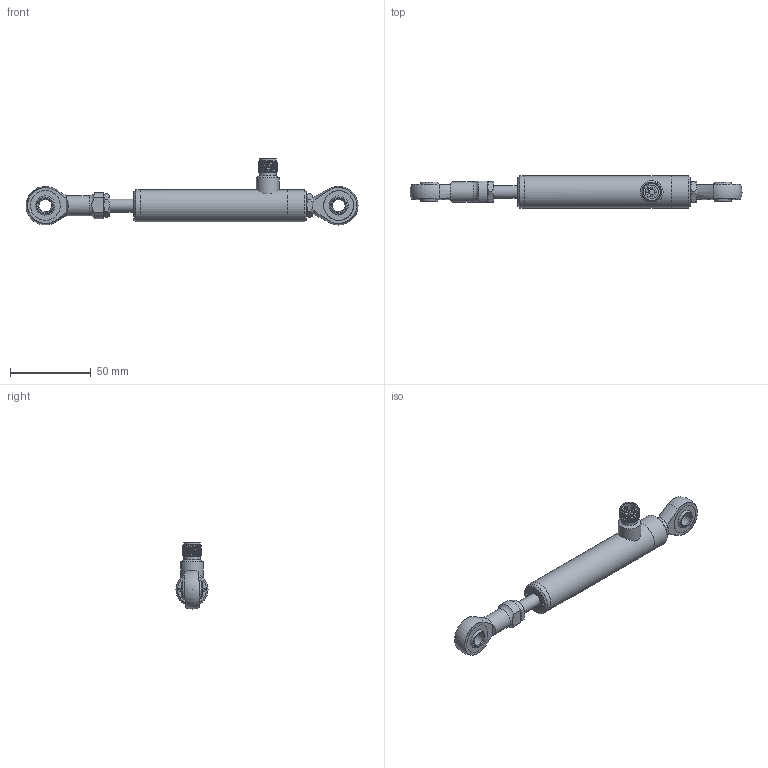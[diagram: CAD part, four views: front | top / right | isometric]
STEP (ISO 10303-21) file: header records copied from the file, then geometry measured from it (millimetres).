
FILE_DESCRIPTION( ( 'STEP AP214' ), '1' );
FILE_NAME( 'N:/Engineering/CAD/LVDT/SL/Kunden-3D-Modell/SL10-G-SR.stp', '2015-01-26T11:31:06', ( ' ' ), ( ' ' ), 'XStep 1.0', ' ', ' ' );
FILE_SCHEMA( ( 'CONFIG_CONTROL_DESIGN) ( )' ) );
Length unit declared in the file: metre
Products named in the file (12): 1; 2; 3; 4; 5; 6; 7; 8; 9; 10; 11; 12
Bounding box: 206 x 20 x 40.99 mm (x, y, z)
Volume: 1908.6 mm3; surface area: 16871.7 mm2
Topology: 2 solids, 114 shells, 126 faces, 536 edges, 488 vertices
Faces by surface type: plane 54, cylinder 35, cone 25, sphere 6, bspline 5, torus 1
Full cylindrical faces by diameter (mm): 2 x4, 8 x3, 10.5 x1, 12.5 x1, 14 x1, 18.5 x1, 20 x3
Entity records: 16338 total; most frequent: CARTESIAN_POINT 11397, DIRECTION 831, ORIENTED_EDGE 465, EDGE_CURVE 453, VERTEX_POINT 453, AXIS2_PLACEMENT_3D 342, CIRCLE 207, EDGE_LOOP 187
